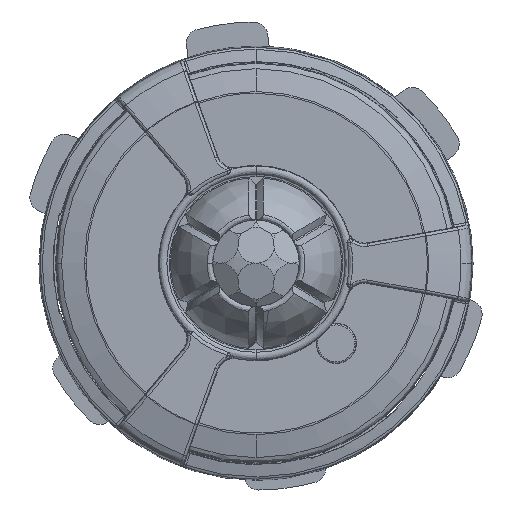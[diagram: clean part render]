
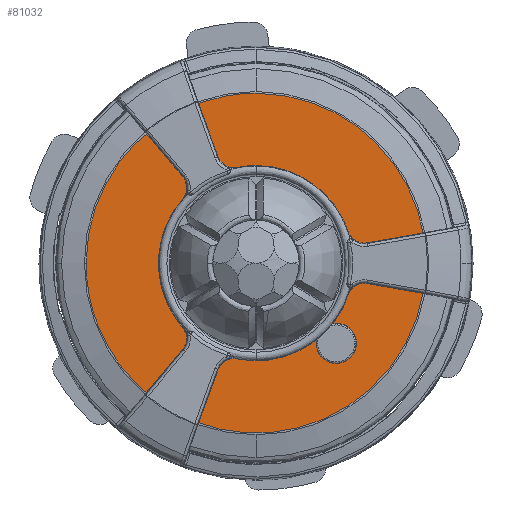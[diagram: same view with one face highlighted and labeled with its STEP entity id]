
A CAD part, front view. The second image highlights one B-rep face of the part: STEP entity #81032.
In plain terms, the highlighted planar face has unit normal (0, -1, 0).
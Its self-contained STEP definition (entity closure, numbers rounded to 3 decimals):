
#3382 = EDGE_LOOP ( 'NONE', ( #50194, #68464 ) ) ;
#3519 = CARTESIAN_POINT ( 'NONE',  ( -11.834, -1.04, 0. ) ) ;
#5711 = DIRECTION ( 'NONE',  ( 0., 0., 1. ) ) ;
#7005 = CIRCLE ( 'NONE', #77405, 1.4 ) ;
#7016 = CARTESIAN_POINT ( 'NONE',  ( -15.385, -1.04, -14.201 ) ) ;
#12528 = FACE_BOUND ( 'NONE', #20718, .T. ) ;
#13615 = VERTEX_POINT ( 'NONE', #30856 ) ;
#13736 = CARTESIAN_POINT ( 'NONE',  ( 0., -1.04, 11.834 ) ) ;
#14462 = AXIS2_PLACEMENT_3D ( 'NONE', #89287, #47527, #5711 ) ;
#17222 = CARTESIAN_POINT ( 'NONE',  ( 5.586, -1.04, -4.186 ) ) ;
#19832 = EDGE_CURVE ( 'NONE', #39936, #13615, #33850, .T. ) ;
#20718 = EDGE_LOOP ( 'NONE', ( #25397, #37287 ) ) ;
#21052 = PLANE ( 'NONE',  #85477 ) ;
#21665 = DIRECTION ( 'NONE',  ( 0., -1., 0. ) ) ;
#23779 = VERTEX_POINT ( 'NONE', #32245 ) ;
#24014 = CARTESIAN_POINT ( 'NONE',  ( 5.586, -1.04, -5.586 ) ) ;
#25397 = ORIENTED_EDGE ( 'NONE', *, *, #36349, .F. ) ;
#28067 = DIRECTION ( 'NONE',  ( 0., 0., 1. ) ) ;
#28897 = FACE_BOUND ( 'NONE', #3382, .T. ) ;
#30856 = CARTESIAN_POINT ( 'NONE',  ( 0., -1.04, 11.834 ) ) ;
#31047 = DIRECTION ( 'NONE',  ( 0., 0., 1. ) ) ;
#31276 = CARTESIAN_POINT ( 'NONE',  ( 11.834, -1.04, -23.668 ) ) ;
#32245 = CARTESIAN_POINT ( 'NONE',  ( 11.834, -1.04, 0. ) ) ;
#33850 =( BOUNDED_CURVE ( )  B_SPLINE_CURVE ( 3, ( #48553, #41511, #55579, #13736 ),
 .UNSPECIFIED., .F., .F. ) 
 B_SPLINE_CURVE_WITH_KNOTS ( ( 4, 4 ),
 ( 0., 1. ),
 .UNSPECIFIED. ) 
 CURVE ( )  GEOMETRIC_REPRESENTATION_ITEM ( )  RATIONAL_B_SPLINE_CURVE ( ( 1., 0.805, 0.805, 1. ) ) 
 REPRESENTATION_ITEM ( '' )  );
#36349 = EDGE_CURVE ( 'NONE', #38401, #87154, #68173, .T. ) ;
#37287 = ORIENTED_EDGE ( 'NONE', *, *, #85387, .F. ) ;
#37782 = ORIENTED_EDGE ( 'NONE', *, *, #19832, .F. ) ;
#38401 = VERTEX_POINT ( 'NONE', #60431 ) ;
#38654 = EDGE_LOOP ( 'NONE', ( #63438, #37782, #58957 ) ) ;
#38844 = AXIS2_PLACEMENT_3D ( 'NONE', #41144, #89966, #48182 ) ;
#39936 = VERTEX_POINT ( 'NONE', #41679 ) ;
#41144 = CARTESIAN_POINT ( 'NONE',  ( 0., -1.04, 0. ) ) ;
#41511 = CARTESIAN_POINT ( 'NONE',  ( -11.834, -1.04, 6.932 ) ) ;
#41679 = CARTESIAN_POINT ( 'NONE',  ( -11.834, -1.04, 0. ) ) ;
#42878 = VERTEX_POINT ( 'NONE', #17222 ) ;
#43440 = CIRCLE ( 'NONE', #38844, 4.871 ) ;
#44857 = CARTESIAN_POINT ( 'NONE',  ( 0., -1.04, 11.834 ) ) ;
#45163 = CARTESIAN_POINT ( 'NONE',  ( 11.834, -1.04, 0. ) ) ;
#45305 = CARTESIAN_POINT ( 'NONE',  ( -11.834, -1.04, -23.668 ) ) ;
#47527 = DIRECTION ( 'NONE',  ( 0., -1., 0. ) ) ;
#48182 = DIRECTION ( 'NONE',  ( 0., 0., 1. ) ) ;
#48553 = CARTESIAN_POINT ( 'NONE',  ( -11.834, -1.04, 0. ) ) ;
#49654 = CARTESIAN_POINT ( 'NONE',  ( 5.586, -1.04, -6.986 ) ) ;
#49994 = EDGE_CURVE ( 'NONE', #57801, #42878, #7005, .T. ) ;
#50194 = ORIENTED_EDGE ( 'NONE', *, *, #86189, .F. ) ;
#55579 = CARTESIAN_POINT ( 'NONE',  ( -6.932, -1.04, 11.834 ) ) ;
#56778 =( BOUNDED_CURVE ( )  B_SPLINE_CURVE ( 3, ( #80088, #31276, #45305, #3519 ),
 .UNSPECIFIED., .F., .F. ) 
 B_SPLINE_CURVE_WITH_KNOTS ( ( 4, 4 ),
 ( 0., 1. ),
 .UNSPECIFIED. ) 
 CURVE ( )  GEOMETRIC_REPRESENTATION_ITEM ( )  RATIONAL_B_SPLINE_CURVE ( ( 1., 0.333, 0.333, 1. ) ) 
 REPRESENTATION_ITEM ( '' )  );
#57801 = VERTEX_POINT ( 'NONE', #49654 ) ;
#58957 = ORIENTED_EDGE ( 'NONE', *, *, #70203, .F. ) ;
#60431 = CARTESIAN_POINT ( 'NONE',  ( 0., -1.04, 4.871 ) ) ;
#63438 = ORIENTED_EDGE ( 'NONE', *, *, #77921, .F. ) ;
#63516 = CARTESIAN_POINT ( 'NONE',  ( 5.586, -1.04, -5.586 ) ) ;
#65971 = CARTESIAN_POINT ( 'NONE',  ( 6.932, -1.04, 11.834 ) ) ;
#68173 = CIRCLE ( 'NONE', #14462, 4.871 ) ;
#68288 = FACE_OUTER_BOUND ( 'NONE', #38654, .T. ) ;
#68464 = ORIENTED_EDGE ( 'NONE', *, *, #49994, .F. ) ;
#69927 = DIRECTION ( 'NONE',  ( 0., 1., 0. ) ) ;
#70203 = EDGE_CURVE ( 'NONE', #23779, #39936, #56778, .T. ) ;
#70544 = DIRECTION ( 'NONE',  ( 0., 0., 1. ) ) ;
#72876 = DIRECTION ( 'NONE',  ( 0., -1., 0. ) ) ;
#74329 =( BOUNDED_CURVE ( )  B_SPLINE_CURVE ( 3, ( #44857, #65971, #86930, #45163 ),
 .UNSPECIFIED., .F., .F. ) 
 B_SPLINE_CURVE_WITH_KNOTS ( ( 4, 4 ),
 ( 0., 1. ),
 .UNSPECIFIED. ) 
 CURVE ( )  GEOMETRIC_REPRESENTATION_ITEM ( )  RATIONAL_B_SPLINE_CURVE ( ( 1., 0.805, 0.805, 1. ) ) 
 REPRESENTATION_ITEM ( '' )  );
#74558 = AXIS2_PLACEMENT_3D ( 'NONE', #63516, #21665, #70544 ) ;
#77234 = CIRCLE ( 'NONE', #74558, 1.4 ) ;
#77405 = AXIS2_PLACEMENT_3D ( 'NONE', #24014, #72876, #31047 ) ;
#77921 = EDGE_CURVE ( 'NONE', #13615, #23779, #74329, .T. ) ;
#80088 = CARTESIAN_POINT ( 'NONE',  ( 11.834, -1.04, 0. ) ) ;
#81032 = ADVANCED_FACE ( 'NONE', ( #28897, #12528, #68288 ), #21052, .F. ) ;
#83738 = CARTESIAN_POINT ( 'NONE',  ( 0., -1.04, -4.871 ) ) ;
#85387 = EDGE_CURVE ( 'NONE', #87154, #38401, #43440, .T. ) ;
#85477 = AXIS2_PLACEMENT_3D ( 'NONE', #7016, #69927, #28067 ) ;
#86189 = EDGE_CURVE ( 'NONE', #42878, #57801, #77234, .T. ) ;
#86930 = CARTESIAN_POINT ( 'NONE',  ( 11.834, -1.04, 6.932 ) ) ;
#87154 = VERTEX_POINT ( 'NONE', #83738 ) ;
#89287 = CARTESIAN_POINT ( 'NONE',  ( 0., -1.04, 0. ) ) ;
#89966 = DIRECTION ( 'NONE',  ( 0., -1., 0. ) ) ;
